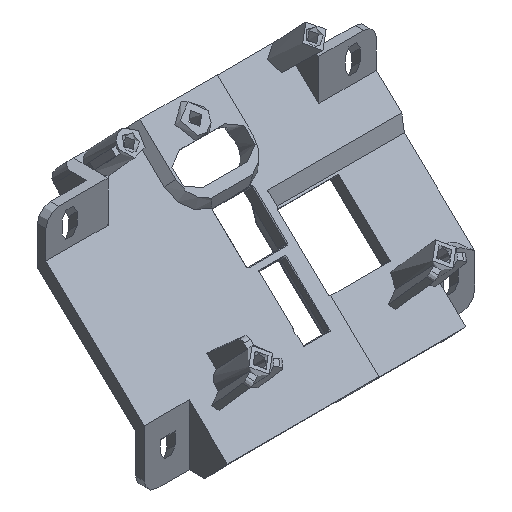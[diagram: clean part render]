
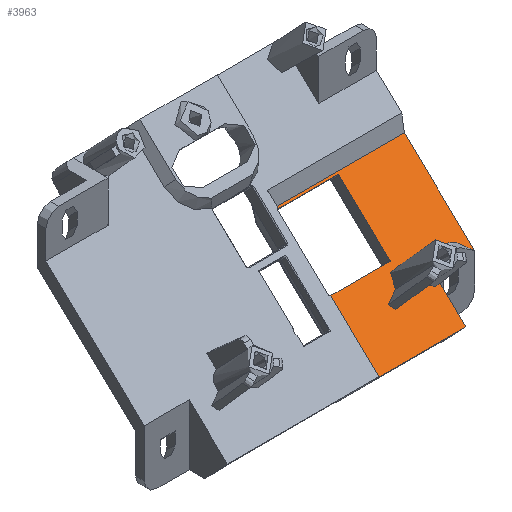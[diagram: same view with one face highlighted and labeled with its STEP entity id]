
A CAD part, isometric view. The second image highlights one B-rep face of the part: STEP entity #3963.
In plain terms, the highlighted planar face has unit normal (0, -0.689, 0.725).
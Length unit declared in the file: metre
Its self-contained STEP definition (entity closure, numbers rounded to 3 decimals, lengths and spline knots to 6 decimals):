
#29=ELLIPSE('',#4014,0.010155,0.007);
#157=LINE('',#5650,#517);
#159=LINE('',#5654,#519);
#161=LINE('',#5658,#521);
#169=LINE('',#5696,#529);
#171=LINE('',#5700,#531);
#172=LINE('',#5702,#532);
#173=LINE('',#5703,#533);
#328=LINE('',#6276,#688);
#332=LINE('',#6285,#692);
#334=LINE('',#6289,#694);
#341=LINE('',#6316,#701);
#346=LINE('',#6336,#706);
#460=LINE('',#6983,#820);
#469=LINE('',#7004,#829);
#471=LINE('',#7021,#831);
#472=LINE('',#7022,#832);
#476=LINE('',#7056,#836);
#488=LINE('',#7209,#848);
#517=VECTOR('',#4468,1.);
#519=VECTOR('',#4472,1.);
#521=VECTOR('',#4476,1.);
#529=VECTOR('',#4518,1.);
#531=VECTOR('',#4522,1.);
#532=VECTOR('',#4525,1.);
#533=VECTOR('',#4526,1.);
#688=VECTOR('',#4965,1.);
#692=VECTOR('',#4971,1.);
#694=VECTOR('',#4975,1.);
#701=VECTOR('',#5002,1.);
#706=VECTOR('',#5025,1.);
#820=VECTOR('',#5393,1.);
#829=VECTOR('',#5414,1.);
#831=VECTOR('',#5418,1.);
#832=VECTOR('',#5419,1.);
#836=VECTOR('',#5427,1.);
#848=VECTOR('',#5471,1.);
#966=PLANE('',#4357);
#2095=ORIENTED_EDGE('',*,*,#2458,.F.);
#2096=ORIENTED_EDGE('',*,*,#2675,.T.);
#2097=ORIENTED_EDGE('',*,*,#2686,.T.);
#2098=ORIENTED_EDGE('',*,*,#2690,.T.);
#2099=ORIENTED_EDGE('',*,*,#2229,.F.);
#2100=ORIENTED_EDGE('',*,*,#2227,.F.);
#2101=ORIENTED_EDGE('',*,*,#2225,.F.);
#2102=ORIENTED_EDGE('',*,*,#2220,.F.);
#2103=ORIENTED_EDGE('',*,*,#2208,.F.);
#2104=ORIENTED_EDGE('',*,*,#2206,.F.);
#2105=ORIENTED_EDGE('',*,*,#2204,.F.);
#2106=ORIENTED_EDGE('',*,*,#2223,.F.);
#2107=ORIENTED_EDGE('',*,*,#2228,.F.);
#2108=ORIENTED_EDGE('',*,*,#2194,.T.);
#2109=ORIENTED_EDGE('',*,*,#2689,.F.);
#2110=ORIENTED_EDGE('',*,*,#2695,.T.);
#2111=ORIENTED_EDGE('',*,*,#2454,.F.);
#2112=ORIENTED_EDGE('',*,*,#2460,.F.);
#2113=ORIENTED_EDGE('',*,*,#2483,.T.);
#2114=ORIENTED_EDGE('',*,*,#2475,.T.);
#2115=ORIENTED_EDGE('',*,*,#2473,.T.);
#2116=ORIENTED_EDGE('',*,*,#2464,.T.);
#2117=ORIENTED_EDGE('',*,*,#2716,.F.);
#2194=EDGE_CURVE('',#2761,#2763,#29,.T.);
#2204=EDGE_CURVE('',#2771,#2770,#157,.T.);
#2206=EDGE_CURVE('',#2770,#2772,#159,.T.);
#2208=EDGE_CURVE('',#2772,#2773,#161,.T.);
#2220=EDGE_CURVE('',#2773,#2784,#3126,.T.);
#2223=EDGE_CURVE('',#2785,#2771,#3127,.T.);
#2225=EDGE_CURVE('',#2784,#2786,#169,.T.);
#2227=EDGE_CURVE('',#2786,#2787,#171,.T.);
#2228=EDGE_CURVE('',#2761,#2785,#172,.T.);
#2229=EDGE_CURVE('',#2787,#2788,#173,.T.);
#2454=EDGE_CURVE('',#2939,#2940,#328,.T.);
#2458=EDGE_CURVE('',#2943,#2944,#332,.T.);
#2460=EDGE_CURVE('',#2945,#2939,#334,.T.);
#2464=EDGE_CURVE('',#2949,#2948,#3183,.T.);
#2473=EDGE_CURVE('',#2955,#2949,#341,.T.);
#2475=EDGE_CURVE('',#2956,#2955,#3189,.T.);
#2483=EDGE_CURVE('',#2945,#2956,#346,.T.);
#2675=EDGE_CURVE('',#2943,#3080,#460,.T.);
#2686=EDGE_CURVE('',#3080,#3086,#469,.T.);
#2689=EDGE_CURVE('',#3087,#2763,#471,.T.);
#2690=EDGE_CURVE('',#3086,#2788,#472,.T.);
#2695=EDGE_CURVE('',#3087,#2940,#476,.T.);
#2716=EDGE_CURVE('',#2944,#2948,#488,.T.);
#2761=VERTEX_POINT('',#5625);
#2763=VERTEX_POINT('',#5628);
#2770=VERTEX_POINT('',#5647);
#2771=VERTEX_POINT('',#5649);
#2772=VERTEX_POINT('',#5653);
#2773=VERTEX_POINT('',#5657);
#2784=VERTEX_POINT('',#5688);
#2785=VERTEX_POINT('',#5691);
#2786=VERTEX_POINT('',#5695);
#2787=VERTEX_POINT('',#5699);
#2788=VERTEX_POINT('',#5704);
#2939=VERTEX_POINT('',#6275);
#2940=VERTEX_POINT('',#6277);
#2943=VERTEX_POINT('',#6284);
#2944=VERTEX_POINT('',#6286);
#2945=VERTEX_POINT('',#6290);
#2948=VERTEX_POINT('',#6297);
#2949=VERTEX_POINT('',#6299);
#2955=VERTEX_POINT('',#6317);
#2956=VERTEX_POINT('',#6321);
#3080=VERTEX_POINT('',#6982);
#3086=VERTEX_POINT('',#7003);
#3087=VERTEX_POINT('',#7020);
#3126=CIRCLE('',#4037,0.00275);
#3127=CIRCLE('',#4038,0.00275);
#3183=CIRCLE('',#4187,0.0002);
#3189=CIRCLE('',#4197,0.0002);
#3485=EDGE_LOOP('',(#2095,#2096,#2097,#2098,#2099,#2100,#2101,#2102,#2103,
#2104,#2105,#2106,#2107,#2108,#2109,#2110,#2111,#2112,#2113,#2114,#2115,
#2116,#2117));
#3734=FACE_BOUND('',#3485,.T.);
#3963=ADVANCED_FACE('',(#3734),#966,.F.);
#4014=AXIS2_PLACEMENT_3D('',#5629,#4448,#4449);
#4037=AXIS2_PLACEMENT_3D('',#5687,#4509,#4510);
#4038=AXIS2_PLACEMENT_3D('',#5692,#4513,#4514);
#4187=AXIS2_PLACEMENT_3D('',#6298,#4981,#4982);
#4197=AXIS2_PLACEMENT_3D('',#6320,#5006,#5007);
#4357=AXIS2_PLACEMENT_3D('',#7210,#5472,#5473);
#4448=DIRECTION('',(0.,0.689,-0.724));
#4449=DIRECTION('',(0.,-0.724,-0.689));
#4468=DIRECTION('',(-0.866,-0.362,-0.345));
#4472=DIRECTION('',(0.5,-0.627,-0.597));
#4476=DIRECTION('',(0.866,0.362,0.345));
#4509=DIRECTION('',(0.,-0.689,0.724));
#4510=DIRECTION('',(-0.697,-0.52,-0.494));
#4513=DIRECTION('',(0.,-0.689,0.724));
#4514=DIRECTION('',(-1.,0.,0.));
#4518=DIRECTION('',(0.866,-0.362,-0.345));
#4522=DIRECTION('',(0.5,0.627,0.597));
#4525=DIRECTION('',(-0.866,0.362,0.345));
#4526=DIRECTION('',(-0.866,0.362,0.345));
#4965=DIRECTION('',(1.,0.,0.));
#4971=DIRECTION('',(0.,0.724,0.689));
#4975=DIRECTION('',(0.,0.724,0.689));
#4981=DIRECTION('',(0.,0.689,-0.724));
#4982=DIRECTION('',(1.,0.,0.));
#5002=DIRECTION('',(0.,-0.724,-0.689));
#5006=DIRECTION('',(0.,0.689,-0.724));
#5007=DIRECTION('',(0.,0.724,0.689));
#5025=DIRECTION('',(1.,0.,0.));
#5393=DIRECTION('',(1.,0.,0.));
#5414=DIRECTION('',(0.,0.724,0.689));
#5418=DIRECTION('',(-1.,0.,0.));
#5419=DIRECTION('',(-1.,0.,0.));
#5427=DIRECTION('',(0.,0.724,0.689));
#5471=DIRECTION('',(1.,0.,0.));
#5472=DIRECTION('',(0.,0.689,-0.724));
#5473=DIRECTION('',(0.,0.724,0.689));
#5625=CARTESIAN_POINT('',(0.027735,0.016309,0.451135));
#5628=CARTESIAN_POINT('',(0.038599,0.016265,0.451094));
#5629=CARTESIAN_POINT('',(0.03315,0.011646,0.4467));
#5647=CARTESIAN_POINT('',(0.018029,0.015792,0.450643));
#5649=CARTESIAN_POINT('',(0.020834,0.016965,0.45176));
#5650=CARTESIAN_POINT('',(0.020834,0.016965,0.45176));
#5653=CARTESIAN_POINT('',(0.018779,0.01485,0.449748));
#5654=CARTESIAN_POINT('',(0.018029,0.015792,0.450643));
#5657=CARTESIAN_POINT('',(0.021584,0.016024,0.450864));
#5658=CARTESIAN_POINT('',(0.018779,0.01485,0.449748));
#5687=CARTESIAN_POINT('',(0.0235,0.017453,0.452224));
#5688=CARTESIAN_POINT('',(0.025416,0.016024,0.450864));
#5691=CARTESIAN_POINT('',(0.026166,0.016965,0.45176));
#5692=CARTESIAN_POINT('',(0.0235,0.017453,0.452224));
#5695=CARTESIAN_POINT('',(0.028221,0.01485,0.449748));
#5696=CARTESIAN_POINT('',(0.025416,0.016024,0.450864));
#5699=CARTESIAN_POINT('',(0.028971,0.015792,0.450643));
#5700=CARTESIAN_POINT('',(0.028221,0.01485,0.449748));
#5702=CARTESIAN_POINT('',(0.027735,0.016309,0.451135));
#5703=CARTESIAN_POINT('',(0.028971,0.015792,0.450643));
#5704=CARTESIAN_POINT('',(0.027838,0.016265,0.451094));
#6275=CARTESIAN_POINT('',(0.0073,0.032703,0.466733));
#6276=CARTESIAN_POINT('',(0.0073,0.032703,0.466733));
#6277=CARTESIAN_POINT('',(0.038684,0.032703,0.466733));
#6284=CARTESIAN_POINT('',(0.0073,0.008828,0.444018));
#6285=CARTESIAN_POINT('',(0.0073,0.01959,0.454257));
#6286=CARTESIAN_POINT('',(0.0073,0.020187,0.454826));
#6289=CARTESIAN_POINT('',(0.0073,0.01959,0.454257));
#6290=CARTESIAN_POINT('',(0.0073,0.032359,0.466406));
#6297=CARTESIAN_POINT('',(0.022725,0.020187,0.454826));
#6298=CARTESIAN_POINT('',(0.022725,0.020332,0.454964));
#6299=CARTESIAN_POINT('',(0.022925,0.020332,0.454964));
#6316=CARTESIAN_POINT('',(0.022925,0.005346,0.440705));
#6317=CARTESIAN_POINT('',(0.022925,0.032214,0.466268));
#6320=CARTESIAN_POINT('',(0.022725,0.032214,0.466268));
#6321=CARTESIAN_POINT('',(0.022725,0.032359,0.466406));
#6336=CARTESIAN_POINT('',(0.0073,0.032359,0.466406));
#6982=CARTESIAN_POINT('',(0.029184,0.008828,0.444018));
#6983=CARTESIAN_POINT('',(0.0023,0.008828,0.444018));
#7003=CARTESIAN_POINT('',(0.029184,0.016265,0.451094));
#7004=CARTESIAN_POINT('',(0.029184,0.008828,0.444018));
#7020=CARTESIAN_POINT('',(0.038684,0.016265,0.451094));
#7021=CARTESIAN_POINT('',(-0.038684,0.016265,0.451094));
#7022=CARTESIAN_POINT('',(0.0023,0.016265,0.451094));
#7056=CARTESIAN_POINT('',(0.038684,0.016265,0.451094));
#7209=CARTESIAN_POINT('',(0.0073,0.020187,0.454826));
#7210=CARTESIAN_POINT('',(0.0023,0.005346,0.440705));
